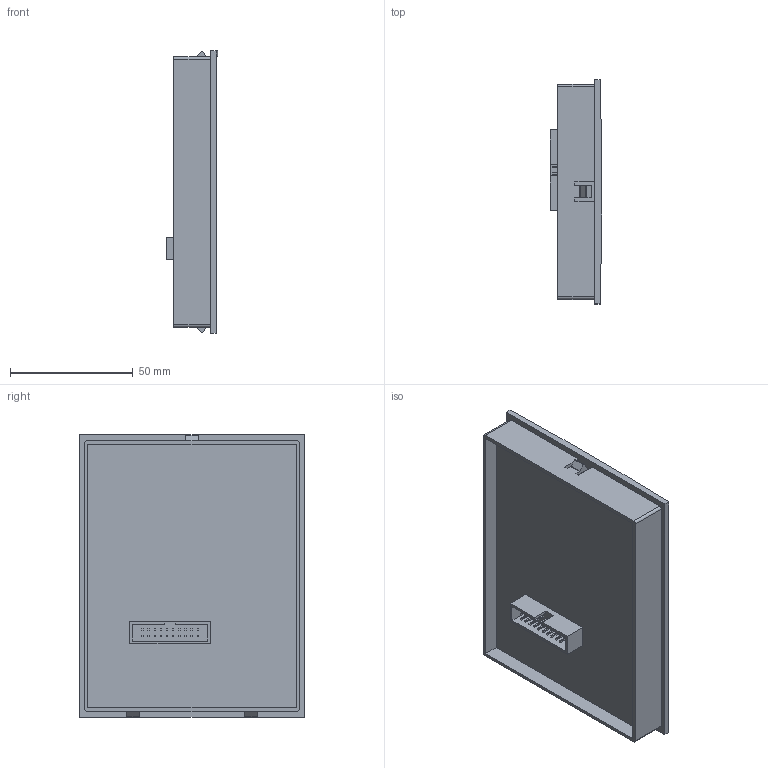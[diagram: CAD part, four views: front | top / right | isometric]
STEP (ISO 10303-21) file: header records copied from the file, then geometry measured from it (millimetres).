
FILE_DESCRIPTION(('STEP AP203'), '1');
FILE_NAME('Ïàíåëü óïðàâëåíèÿ _ SSI-KP', '', ('UNSPECIFIED'), ('UNSPECIFIED'), 'C3D Converter', 'C3D Toolkit', '');
FILE_SCHEMA(('CONFIG_CONTROL_DESIGN'));
Length unit declared in the file: millimetre
Products named in the file (1): SSI-KP
Bounding box: 20.92 x 91.3 x 115 mm (x, y, z)
Volume: 107395.7 mm3; surface area: 33417.1 mm2
Topology: 1 solids, 1 shells, 196 faces, 490 edges, 326 vertices
Faces by surface type: plane 172, cylinder 24
Full cylindrical faces by diameter (mm): 12 x6
Entity records: 7344 total; most frequent: CARTESIAN_POINT 1007, ORIENTED_EDGE 968, DIRECTION 926, EDGE_CURVE 484, LINE 436, VECTOR 436, VERTEX_POINT 326, AXIS2_PLACEMENT_3D 245
